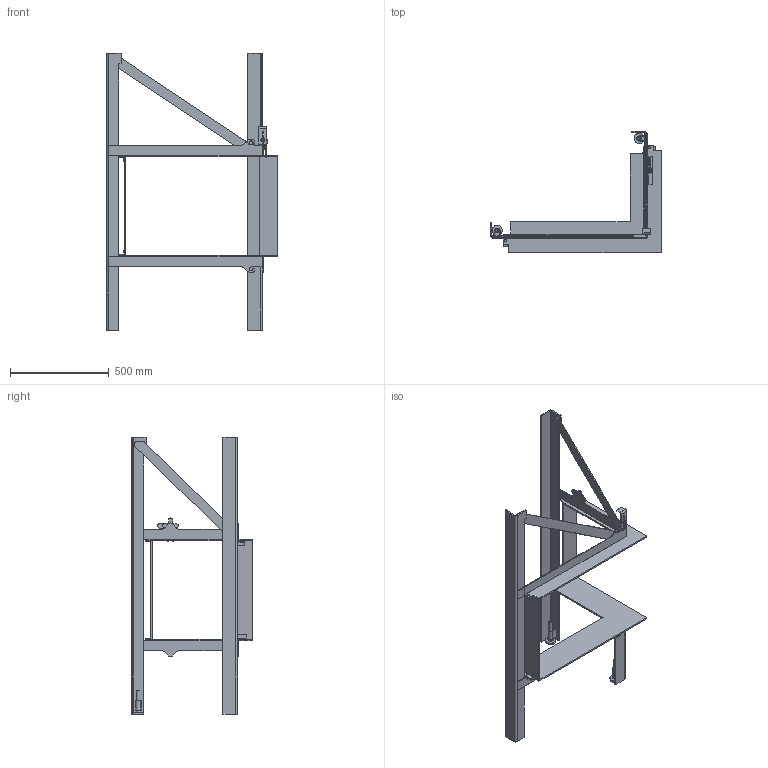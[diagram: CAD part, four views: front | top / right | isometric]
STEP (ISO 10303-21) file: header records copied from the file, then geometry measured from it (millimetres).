
FILE_DESCRIPTION(/* description */ (''),/* implementation_level */ '2;1');
FILE_NAME(/* name */ 'C:\Users\jku\Desktop\Export\Rechts freistehend.stp',/* time_stamp */ '2019-10-16T16:45:53+02:00',/* author */ ('JKU'),/* organization */ (''),/* preprocessor_version */ 'ST-DEVELOPER v17.2',/* originating_system */ 'Autodesk Inventor 2019',/* authorisation */ '');
FILE_SCHEMA (('AUTOMOTIVE_DESIGN { 1 0 10303 214 3 1 1 }'));
Length unit declared in the file: millimetre
Products named in the file (1): 2019-03178
Bounding box: 866.4 x 613.5 x 1406 mm (x, y, z)
Volume: 6729285.8 mm3; surface area: 2297416.2 mm2
Topology: 35 solids, 35 shells, 723 faces, 1876 edges, 1231 vertices
Faces by surface type: plane 395, cylinder 276, cone 52
Full cylindrical faces by diameter (mm): 10 x1, 10.21 x2, 16 x4, 20 x2, 24 x3, 25 x2, 30 x3
Entity records: 22794 total; most frequent: CARTESIAN_POINT 4323, DIRECTION 3815, ORIENTED_EDGE 3752, EDGE_CURVE 1876, AXIS2_PLACEMENT_3D 1335, VERTEX_POINT 1231, LINE 1145, VECTOR 1145
